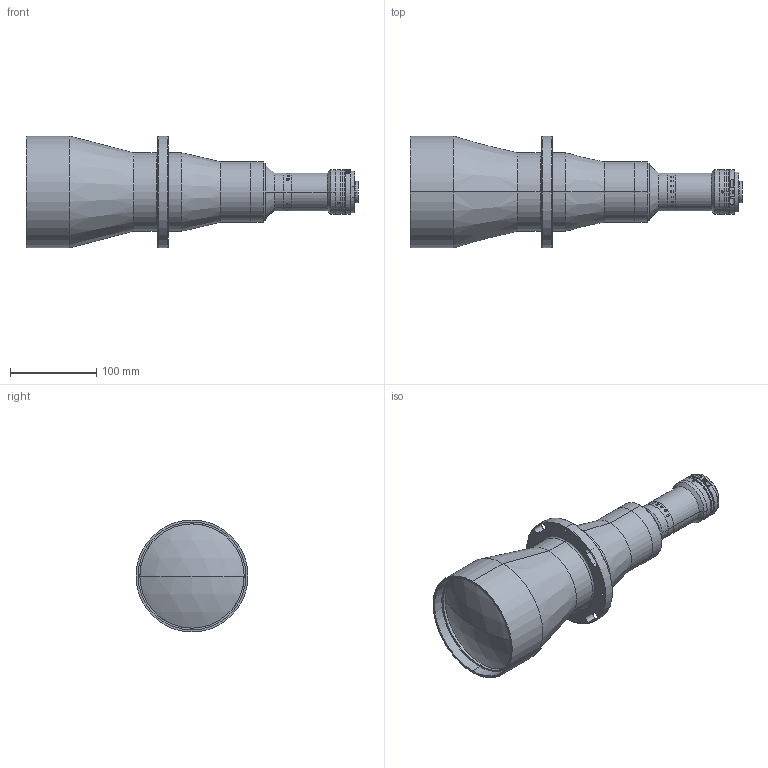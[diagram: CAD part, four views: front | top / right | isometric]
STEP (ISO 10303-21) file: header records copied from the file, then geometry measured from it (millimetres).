
FILE_DESCRIPTION (( 'STEP AP203' ), '1' );
FILE_NAME ('XF-PTL11023-C1.STEP', '2020-05-09T02:48:33', ( 'puyufan' ), ( '' ), 'SwSTEP 2.0', 'SolidWorks 2014', '' );
FILE_SCHEMA (( 'CONFIG_CONTROL_DESIGN' ));
Length unit declared in the file: millimetre
Products named in the file (1): XF-PTL11023-C1
Bounding box: 385.36 x 130 x 130 mm (x, y, z)
Surface area: 155439.3 mm2 (no closed solid volume)
Topology: 0 solids, 34 shells, 199 faces, 1011 edges, 850 vertices
Faces by surface type: cylinder 109, plane 56, cone 16, torus 12, sphere 4, bspline 2
Entity records: 16358 total; most frequent: CARTESIAN_POINT 8648, DIRECTION 1517, ORIENTED_EDGE 1372, EDGE_CURVE 1009, VERTEX_POINT 850, AXIS2_PLACEMENT_3D 598, CIRCLE 400, LINE 321
